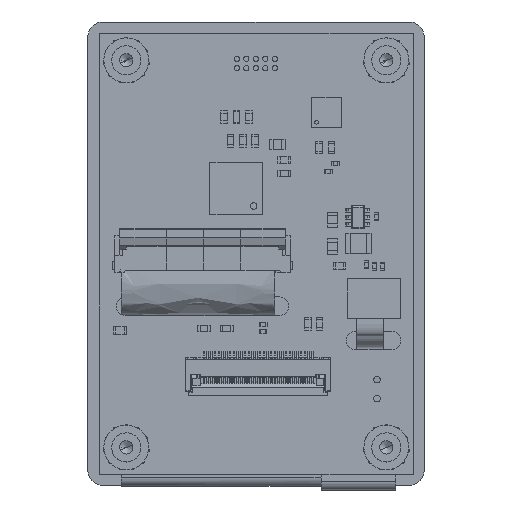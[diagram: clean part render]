
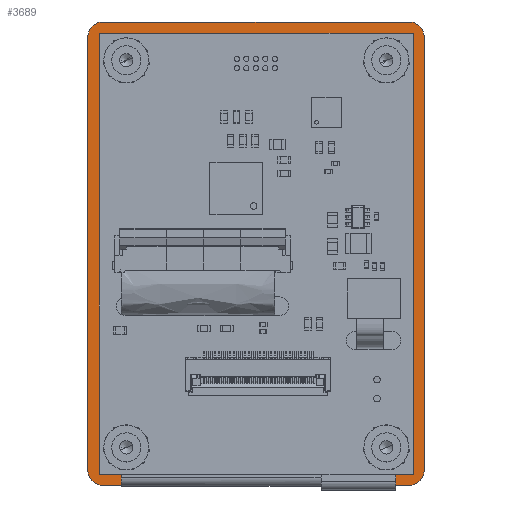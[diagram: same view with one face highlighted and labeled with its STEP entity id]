
A CAD part, top view. The second image highlights one B-rep face of the part: STEP entity #3689.
In plain terms, the highlighted planar face has unit normal (0, 0, 1) as drawn and (0, 0, -1) by its records, which use the part's own axes.
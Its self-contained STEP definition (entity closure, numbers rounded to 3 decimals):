
#3689 = ADVANCED_FACE ( 'NONE', ( #203213 ), #138527, .F. ) ;
#3894 = EDGE_CURVE ( 'NONE', #157648, #135268, #13527, .T. ) ;
#6324 = CARTESIAN_POINT ( 'NONE',  ( 22.5, -29., 2.275 ) ) ;
#8825 = VECTOR ( 'NONE', #68182, 1000. ) ;
#13047 = CARTESIAN_POINT ( 'NONE',  ( -22.5, -29., 2.275 ) ) ;
#13527 = LINE ( 'NONE', #101099, #8825 ) ;
#13839 = DIRECTION ( 'NONE',  ( 0., 0., 1. ) ) ;
#20224 = CARTESIAN_POINT ( 'NONE',  ( 0., 0., 2.275 ) ) ;
#22243 = CARTESIAN_POINT ( 'NONE',  ( -22.5, 29., 2.275 ) ) ;
#26362 = CIRCLE ( 'NONE', #54254, 2. ) ;
#27488 = DIRECTION ( 'NONE',  ( 1., 0., 0. ) ) ;
#27860 = VERTEX_POINT ( 'NONE', #212813 ) ;
#28215 = VERTEX_POINT ( 'NONE', #146815 ) ;
#28533 = LINE ( 'NONE', #62442, #151211 ) ;
#32202 = EDGE_LOOP ( 'NONE', ( #33247, #53357, #102080, #107156, #146551, #41607, #121691, #35243 ) ) ;
#33247 = ORIENTED_EDGE ( 'NONE', *, *, #47782, .T. ) ;
#35243 = ORIENTED_EDGE ( 'NONE', *, *, #114400, .F. ) ;
#40139 = AXIS2_PLACEMENT_3D ( 'NONE', #20224, #55231, #189007 ) ;
#41607 = ORIENTED_EDGE ( 'NONE', *, *, #161669, .F. ) ;
#46306 = EDGE_CURVE ( 'NONE', #92180, #95043, #28533, .T. ) ;
#47782 = EDGE_CURVE ( 'NONE', #28215, #27860, #81078, .T. ) ;
#49449 = VECTOR ( 'NONE', #104926, 1000. ) ;
#53357 = ORIENTED_EDGE ( 'NONE', *, *, #76264, .F. ) ;
#54254 = AXIS2_PLACEMENT_3D ( 'NONE', #214493, #216621, #195951 ) ;
#55231 = DIRECTION ( 'NONE',  ( 0., 0., 1. ) ) ;
#59530 = DIRECTION ( 'NONE',  ( 0., 0., 1. ) ) ;
#62385 = VERTEX_POINT ( 'NONE', #6324 ) ;
#62442 = CARTESIAN_POINT ( 'NONE',  ( 0., -31., 2.275 ) ) ;
#68182 = DIRECTION ( 'NONE',  ( 0., -1., 0. ) ) ;
#72024 = DIRECTION ( 'NONE',  ( 1., 0., 0. ) ) ;
#73236 = CIRCLE ( 'NONE', #129300, 2. ) ;
#76264 = EDGE_CURVE ( 'NONE', #143128, #27860, #26362, .T. ) ;
#81078 = LINE ( 'NONE', #115020, #109268 ) ;
#88464 = DIRECTION ( 'NONE',  ( 0., 0., 1. ) ) ;
#89849 = CARTESIAN_POINT ( 'NONE',  ( 22.5, 29., 2.275 ) ) ;
#92180 = VERTEX_POINT ( 'NONE', #142921 ) ;
#95043 = VERTEX_POINT ( 'NONE', #188059 ) ;
#101099 = CARTESIAN_POINT ( 'NONE',  ( -22.5, 0., 2.275 ) ) ;
#102080 = ORIENTED_EDGE ( 'NONE', *, *, #156997, .T. ) ;
#103847 = CARTESIAN_POINT ( 'NONE',  ( -20.5, 29., 2.275 ) ) ;
#104926 = DIRECTION ( 'NONE',  ( 0., -1., 0. ) ) ;
#107156 = ORIENTED_EDGE ( 'NONE', *, *, #118460, .F. ) ;
#109268 = VECTOR ( 'NONE', #27488, 1000. ) ;
#114400 = EDGE_CURVE ( 'NONE', #28215, #157648, #73236, .T. ) ;
#115020 = CARTESIAN_POINT ( 'NONE',  ( 0., 31., 2.275 ) ) ;
#118460 = EDGE_CURVE ( 'NONE', #95043, #62385, #147716, .T. ) ;
#121691 = ORIENTED_EDGE ( 'NONE', *, *, #3894, .F. ) ;
#127951 = CIRCLE ( 'NONE', #155932, 2. ) ;
#129300 = AXIS2_PLACEMENT_3D ( 'NONE', #103847, #88464, #72024 ) ;
#135268 = VERTEX_POINT ( 'NONE', #13047 ) ;
#138527 = PLANE ( 'NONE',  #40139 ) ;
#142921 = CARTESIAN_POINT ( 'NONE',  ( -20.5, -31., 2.275 ) ) ;
#143128 = VERTEX_POINT ( 'NONE', #89849 ) ;
#146449 = CARTESIAN_POINT ( 'NONE',  ( 20.5, -29., 2.275 ) ) ;
#146551 = ORIENTED_EDGE ( 'NONE', *, *, #46306, .F. ) ;
#146815 = CARTESIAN_POINT ( 'NONE',  ( -20.5, 31., 2.275 ) ) ;
#147716 = CIRCLE ( 'NONE', #175795, 2. ) ;
#151211 = VECTOR ( 'NONE', #196191, 1000. ) ;
#155932 = AXIS2_PLACEMENT_3D ( 'NONE', #207471, #59530, #193283 ) ;
#156997 = EDGE_CURVE ( 'NONE', #143128, #62385, #190455, .T. ) ;
#157648 = VERTEX_POINT ( 'NONE', #22243 ) ;
#161669 = EDGE_CURVE ( 'NONE', #135268, #92180, #127951, .T. ) ;
#161863 = DIRECTION ( 'NONE',  ( 1., 0., 0. ) ) ;
#175795 = AXIS2_PLACEMENT_3D ( 'NONE', #146449, #13839, #161863 ) ;
#188059 = CARTESIAN_POINT ( 'NONE',  ( 20.5, -31., 2.275 ) ) ;
#188289 = CARTESIAN_POINT ( 'NONE',  ( 22.5, 0., 2.275 ) ) ;
#189007 = DIRECTION ( 'NONE',  ( 1., 0., 0. ) ) ;
#190455 = LINE ( 'NONE', #188289, #49449 ) ;
#193283 = DIRECTION ( 'NONE',  ( 1., 0., 0. ) ) ;
#195951 = DIRECTION ( 'NONE',  ( 1., 0., 0. ) ) ;
#196191 = DIRECTION ( 'NONE',  ( 1., 0., 0. ) ) ;
#203213 = FACE_OUTER_BOUND ( 'NONE', #32202, .T. ) ;
#207471 = CARTESIAN_POINT ( 'NONE',  ( -20.5, -29., 2.275 ) ) ;
#212813 = CARTESIAN_POINT ( 'NONE',  ( 20.5, 31., 2.275 ) ) ;
#214493 = CARTESIAN_POINT ( 'NONE',  ( 20.5, 29., 2.275 ) ) ;
#216621 = DIRECTION ( 'NONE',  ( 0., 0., 1. ) ) ;
